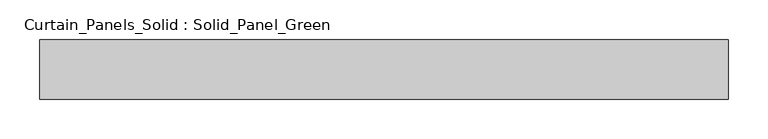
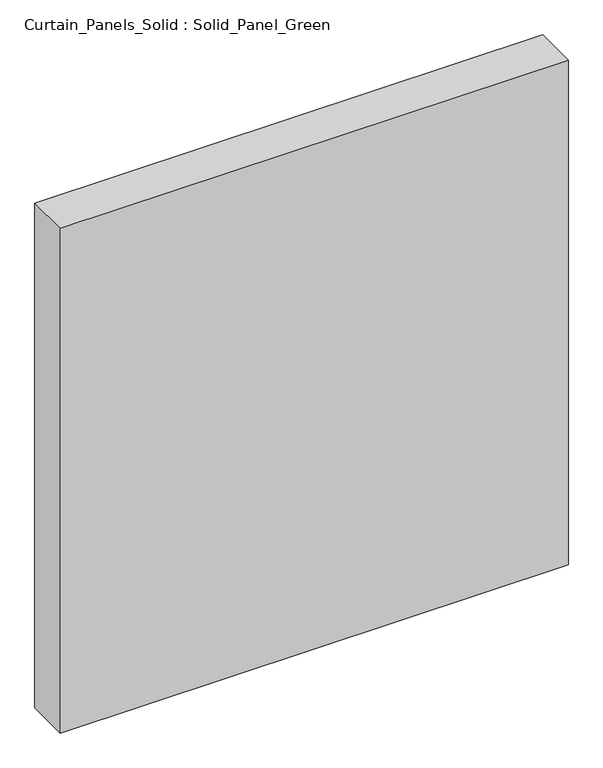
"""IFC4 building model written with IfcOpenShell, lengths in millimetres: plate geometry, Curtain_Panels_Solid : Solid_Panel_Green."""

from ifc_helpers import new_model, si_unit, origin, origin_with_axes, place, context, project, spatial, polyline, outline, extrude, source, transform, mapped, element, save


def curtain_panels_solid_solid_panel_green_f9f5bd6f(model_context):
    return source(origin(), model_context, "Body", "SweptSolid", [
        extrude(outline(polyline([(434.6351657, 25.0), (434.6351657, -50.0), (-434.6351657, -50.0), (-434.6351657, 25.0), (434.6351657, 25.0)])), origin_with_axes(), (0.0, 0.0, 1.0), 912.5),
    ])


if __name__ == "__main__":
    model = new_model("IFC4")
    model_context = context("Model", 3, world=origin())
    ifc_project = project(units=[si_unit("LENGTHUNIT", "METRE", prefix="MILLI")], contexts=[model_context])
    site = spatial("IfcSite", under=ifc_project)
    building = spatial("IfcBuilding", under=site)
    placement = place(None, origin())
    curtain_panels_solid_solid_panel_green_shape = curtain_panels_solid_solid_panel_green_f9f5bd6f(model_context)
    element("IfcPlate", 1, ObjectType="Curtain_Panels_Solid : Solid_Panel_Green", at=placement, inside=building, context=model_context, shape_type="MappedRepresentation", body=[
        mapped(curtain_panels_solid_solid_panel_green_shape, transform((0.0, 0.0, 0.0), x_axis=(1.0, 0.0, 0.0), y_axis=(0.0, 1.0, 0.0), z_axis=(0.0, 0.0, 1.0))),
    ])
    save(model, "model.ifc")
